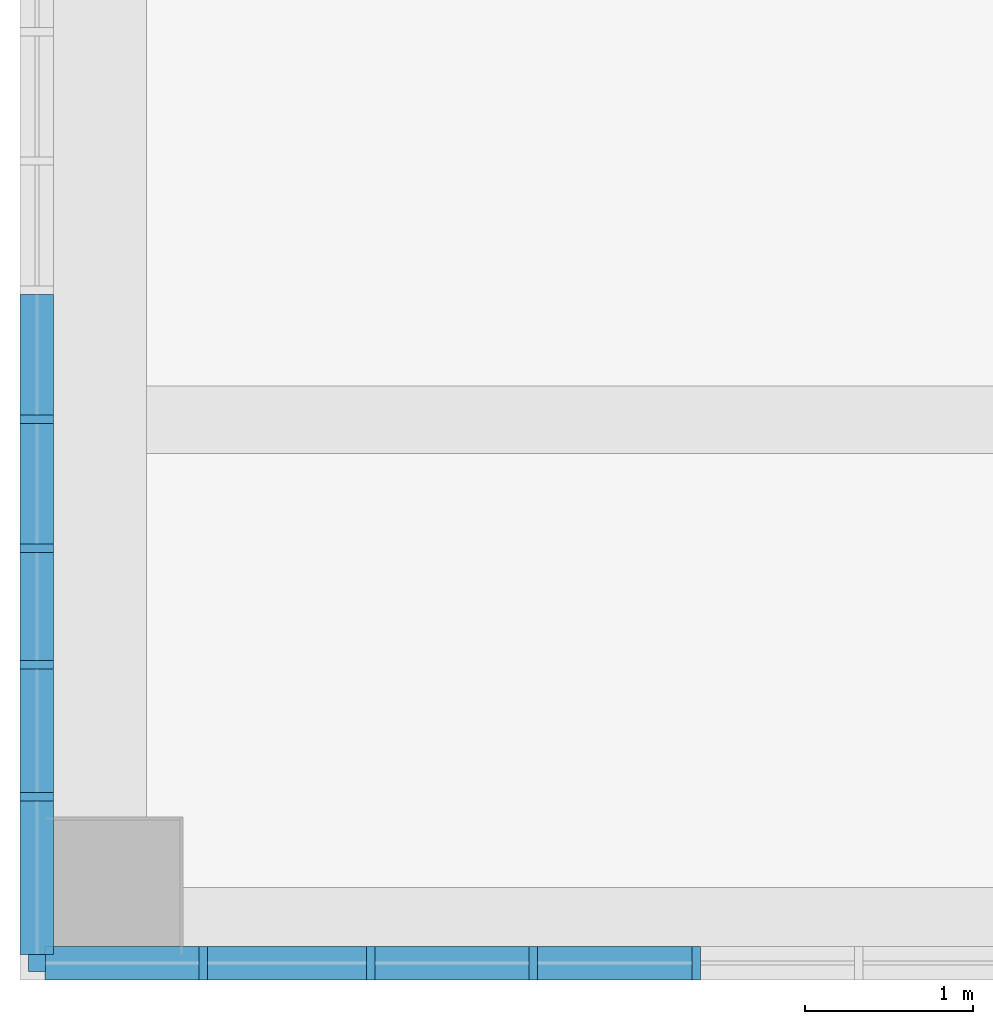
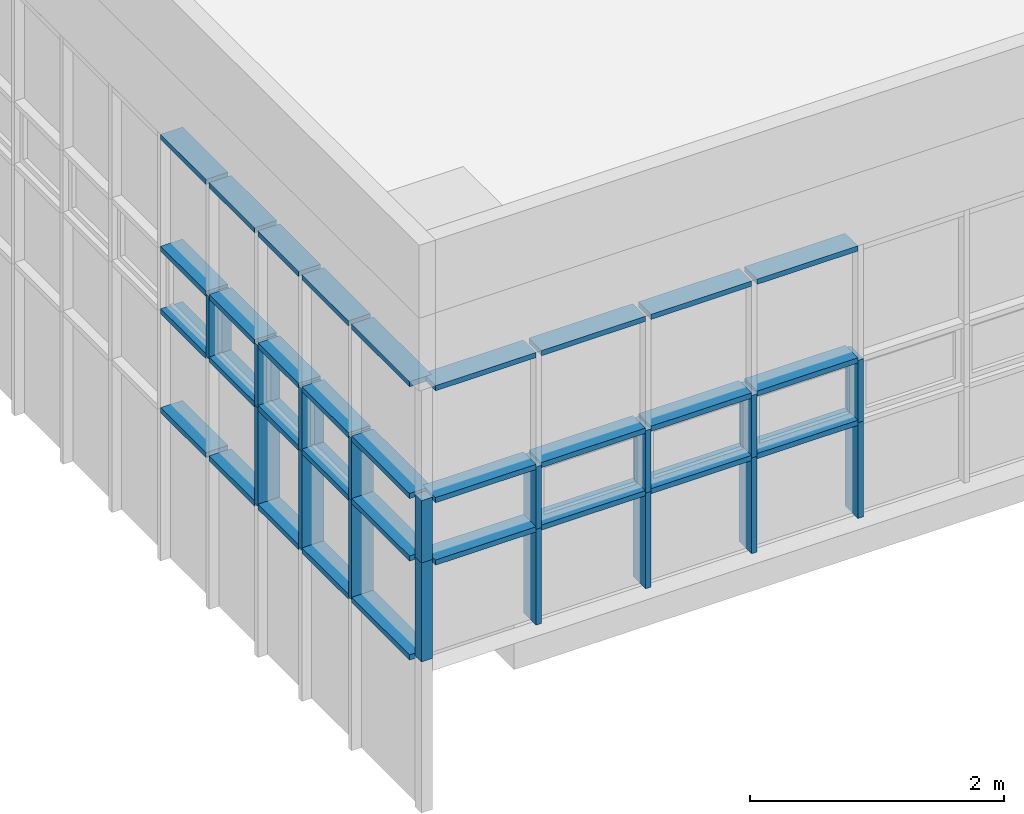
# One storey, part 10 of 81: 49 members, 2 elements without a shape of their own.
"""IFC2X3 building model written with IfcOpenShell, lengths in millimetres."""

import ifcopenshell
import ifcopenshell.guid

model = None  # the IFC model being written
_history = None  # IfcOwnerHistory: only IFC2X3 demands one
_inside = {}  # id of a spatial element -> (the spatial element, [elements in it])
_under = {}  # id of a project, library or spatial element -> (it, [spatial elements below it])
_declared = {}  # id of a project -> (the project, [libraries it declares])
_typed = {}  # id of a type object -> (the type object, [elements of that type])
_made_of = {}  # id of a material, layer set ... -> (it, [elements and type objects made of it])


def new_model(schema):
    """Start an empty IFC model of exactly this schema.

    Asked for "IFC4X3", IfcOpenShell would pick the latest addendum, in which some entities
    have other attributes; the version numbers below select the first issue.
    IFC2X3 requires an IfcOwnerHistory on every rooted entity: one is made here for all.
    """
    global model, _history
    if schema == "IFC4X3":
        model = ifcopenshell.file(schema_version=(4, 3, 0, 0))
    else:
        model = ifcopenshell.file(schema=schema)
    _inside.clear()
    _under.clear()
    _declared.clear()
    _typed.clear()
    _made_of.clear()
    _history = None
    if model.schema == "IFC2X3":
        org = make("IfcOrganization", Name="unknown")
        user = make(
            "IfcPersonAndOrganization",
            ThePerson=make("IfcPerson", FamilyName="unknown"),
            TheOrganization=org,
        )
        app = make(
            "IfcApplication",
            ApplicationDeveloper=org,
            Version="unknown",
            ApplicationFullName="unknown",
            ApplicationIdentifier="unknown",
        )
        _history = make(
            "IfcOwnerHistory",
            OwningUser=user,
            OwningApplication=app,
            ChangeAction="ADDED",
            CreationDate=0,
        )
    return model


def make(cls, **values):
    """One entity of the class cls with the attributes given. An attribute that is None is left unset."""
    return model.create_entity(
        cls, **{name: value for name, value in values.items() if value is not None}
    )


def entity(cls, *values):
    """Any entity or typed value of the class cls, its attributes in the order of the schema. None: left unset."""
    e = model.create_entity(cls)
    for i, value in enumerate(values):
        if value is not None:
            e[i] = value
    return e


def rooted(cls, **values):
    """An entity with a GlobalId (a new one), such as an element, a storey or a relation."""
    return make(cls, GlobalId=ifcopenshell.guid.new(), OwnerHistory=_history, **values)


def si_unit(unit_type, name, prefix=None):
    """IfcSIUnit, for example si_unit("LENGTHUNIT", "METRE", prefix="MILLI")."""
    return make("IfcSIUnit", UnitType=unit_type, Prefix=prefix, Name=name)


def converted_unit(unit_type, name, factor, base, dimensions=None, offset=None):
    """IfcConversionBasedUnit, such as the inch: factor (a typed value) times the base unit."""
    return make(
        "IfcConversionBasedUnit"
        if offset is None
        else "IfcConversionBasedUnitWithOffset",
        ConversionOffset=offset,
        Dimensions=None
        if dimensions is None
        else entity("IfcDimensionalExponents", *dimensions),
        UnitType=unit_type,
        Name=name,
        ConversionFactor=make(
            "IfcMeasureWithUnit", ValueComponent=factor, UnitComponent=base
        ),
    )


def derived_unit(unit_type, elements):
    """IfcDerivedUnit: a product of units, each with its exponent."""
    return make(
        "IfcDerivedUnit",
        Elements=[
            make("IfcDerivedUnitElement", Unit=unit, Exponent=power)
            for unit, power in elements
        ],
        UnitType=unit_type,
    )


def assignment(units):
    """IfcUnitAssignment: the units of a project."""
    return None if units is None else make("IfcUnitAssignment", Units=units)


def point(xyz):
    """IfcCartesianPoint."""
    return None if xyz is None else make("IfcCartesianPoint", Coordinates=xyz)


def direction(xyz):
    """IfcDirection."""
    return None if xyz is None else make("IfcDirection", DirectionRatios=xyz)


def frame(location, z_axis=None, x_axis=None):
    """IfcAxis2Placement3D, a coordinate frame: its origin and axes. An axis left out is left unset."""
    return make(
        "IfcAxis2Placement3D",
        Location=point(location),
        Axis=direction(z_axis),
        RefDirection=direction(x_axis),
    )


def frame_2d(location, x_axis=None):
    """IfcAxis2Placement2D, a coordinate frame in the plane: its origin and x axis."""
    return make(
        "IfcAxis2Placement2D", Location=point(location), RefDirection=direction(x_axis)
    )


def origin():
    """The frame at (0, 0, 0) with its axes left unset."""
    return frame((0.0, 0.0, 0.0))


def origin_2d_with_axis():
    """The frame at (0, 0) in the plane with the x axis (1, 0) written out."""
    return frame_2d((0.0, 0.0), x_axis=(1.0, 0.0))


def place(relative_to, where):
    """IfcLocalPlacement: puts the frame where relative to a parent placement (None: the world)."""
    return make(
        "IfcLocalPlacement", PlacementRelTo=relative_to, RelativePlacement=where
    )


def context(
    kind, dimensions, precision=None, world=None, true_north=None, identifier=None
):
    """IfcGeometricRepresentationContext, for example the 3D "Model" context."""
    return make(
        "IfcGeometricRepresentationContext",
        ContextIdentifier=identifier,
        ContextType=kind,
        CoordinateSpaceDimension=dimensions,
        Precision=precision,
        WorldCoordinateSystem=world,
        TrueNorth=true_north,
    )


def subcontext(parent, identifier, kind, view, scale=None):
    """IfcGeometricRepresentationSubContext, for example "Body" below "Model"."""
    return make(
        "IfcGeometricRepresentationSubContext",
        ContextIdentifier=identifier,
        ContextType=kind,
        ParentContext=parent,
        TargetScale=scale,
        TargetView=view,
    )


def project(units=None, contexts=None):
    """IfcProject with its units and contexts."""
    return rooted(
        "IfcProject",
        Name="project",
        RepresentationContexts=contexts,
        UnitsInContext=assignment(units),
    )


def spatial(cls, under=None, at=None, **own):
    """A site, building, storey or space (cls), placed at a placement, below another one or the project."""
    s = rooted(cls, ObjectPlacement=at, **own)
    if under is not None:
        _under.setdefault(under.id(), (under, []))[1].append(s)
    return s


def profile(cls, at=None, kind="AREA", **sizes):
    """A parametric profile (cls). Its sizes go by their IFC names, for example OverallWidth=200.0."""
    return make(cls, ProfileType=kind, Position=at, **sizes)


def rectangle(**sizes):
    """IfcRectangleProfileDef."""
    return profile("IfcRectangleProfileDef", **sizes)


def extrude(swept, where, along, depth):
    """IfcExtrudedAreaSolid: the profile swept, set in the frame where, extruded along a direction by depth."""
    return make(
        "IfcExtrudedAreaSolid",
        SweptArea=swept,
        Position=where,
        ExtrudedDirection=direction(along),
        Depth=depth,
    )


def shape(context_of_items, identifier, shape_type, items):
    """IfcShapeRepresentation: the items that make up one representation, for example the "Body"."""
    return make(
        "IfcShapeRepresentation",
        ContextOfItems=context_of_items,
        RepresentationIdentifier=identifier,
        RepresentationType=shape_type,
        Items=items,
    )


def source(mapping_origin, context_of_items, identifier, shape_type, items):
    """IfcRepresentationMap: a shape defined once, which mapped items show again and again."""
    return make(
        "IfcRepresentationMap",
        MappingOrigin=mapping_origin,
        MappedRepresentation=shape(context_of_items, identifier, shape_type, items),
    )


def transform(
    local_origin,
    x_axis=None,
    y_axis=None,
    z_axis=None,
    scale=None,
    scale2=None,
    scale3=None,
    uniform=True,
):
    """IfcCartesianTransformationOperator3D, or its non-uniform kind. x_axis, y_axis, z_axis: its Axis1, 2, 3."""
    if uniform:
        return make(
            "IfcCartesianTransformationOperator3D",
            Axis1=direction(x_axis),
            Axis2=direction(y_axis),
            LocalOrigin=point(local_origin),
            Scale=scale,
            Axis3=direction(z_axis),
        )
    return make(
        "IfcCartesianTransformationOperator3DnonUniform",
        Axis1=direction(x_axis),
        Axis2=direction(y_axis),
        LocalOrigin=point(local_origin),
        Scale=scale,
        Axis3=direction(z_axis),
        Scale2=scale2,
        Scale3=scale3,
    )


def mapped(mapping_source, mapping_target):
    """IfcMappedItem: shows the shape of a source again, moved by a transform."""
    return make(
        "IfcMappedItem", MappingSource=mapping_source, MappingTarget=mapping_target
    )


def material(Name=None, Category=None):
    """IfcMaterial."""
    return make("IfcMaterial", Name=Name, Category=Category)


def made_of(thing, what):
    """Note that an element or type object is made of a material, layer set ...; save() writes the relation."""
    if what is not None:
        _made_of.setdefault(what.id(), (what, []))[1].append(thing)
    return thing


def type_object(cls, material=None, **own):
    """A type object (cls), such as IfcWallType, which elements share."""
    return made_of(rooted(cls, **own), material)


def type_shapes(of_type, sources):
    """Give a type object the sources (RepresentationMaps) that its elements show as mapped items."""
    of_type.RepresentationMaps = sources


def element(
    cls,
    number,
    at=None,
    inside=None,
    cuts=None,
    type_object=None,
    material=None,
    context=None,
    identifier="Body",
    shape_type=None,
    held_by="IfcProductDefinitionShape",
    body=None,
    shapes=None,
    **own,
):
    """One element of the class cls, such as IfcWall. Its Tag is "e" and its number.

    at: its placement. inside: the storey or other place that contains it. cuts: it is an
    opening in that element (IfcRelVoidsElement). A single representation is given by context,
    identifier, shape_type and body (its items); several are given by shapes. held_by: the class
    of the entity that holds the representations. save() writes the other relations.
    """
    e = rooted(cls, Tag="e%d" % number, ObjectPlacement=at, **own)
    if body is not None:
        shapes = [shape(context, identifier, shape_type, body)]
    if shapes is not None:
        e.Representation = make(held_by, Representations=shapes)
    if inside is not None:
        _inside.setdefault(inside.id(), (inside, []))[1].append(e)
    if cuts is not None:
        rooted(
            "IfcRelVoidsElement", RelatingBuildingElement=cuts, RelatedOpeningElement=e
        )
    if type_object is not None:
        _typed.setdefault(type_object.id(), (type_object, []))[1].append(e)
    return made_of(e, material)


def aggregate(whole, parts):
    """IfcRelAggregates: a whole, such as a stair, and the parts it consists of."""
    return rooted("IfcRelAggregates", RelatingObject=whole, RelatedObjects=parts)


def save(model, path):
    """Write the relations noted so far, then the file.

    IfcRelAggregates (storeys below a building ...), IfcRelContainedInSpatialStructure (elements
    in a storey), IfcRelDefinesByType, IfcRelAssociatesMaterial and IfcRelDeclares: one each for
    every whole, place, type object, material and project.
    """
    for whole, parts in _under.values():
        aggregate(whole, parts)
    for where, things in _inside.values():
        rooted(
            "IfcRelContainedInSpatialStructure",
            RelatedElements=things,
            RelatingStructure=where,
        )
    for kind, things in _typed.values():
        rooted("IfcRelDefinesByType", RelatedObjects=things, RelatingType=kind)
    for what, things in _made_of.values():
        rooted("IfcRelAssociatesMaterial", RelatedObjects=things, RelatingMaterial=what)
    for by, libraries in _declared.values():
        rooted("IfcRelDeclares", RelatingContext=by, RelatedDefinitions=libraries)
    model.write(path)


model = new_model("IFC2X3")

# Units and contexts
model_context = context("Model", 3, precision=0.01, world=origin(), true_north=direction((6.123031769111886e-17, 1.0)))
body_context = subcontext(model_context, "Body", "Model", "MODEL_VIEW")
ifc_project = project(units=[si_unit("LENGTHUNIT", "METRE", prefix="MILLI"), si_unit("AREAUNIT", "SQUARE_METRE"), si_unit("VOLUMEUNIT", "CUBIC_METRE"), converted_unit("PLANEANGLEUNIT", "DEGREE", entity("IfcRatioMeasure", 0.017453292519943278), si_unit("PLANEANGLEUNIT", "RADIAN"), dimensions=[0, 0, 0, 0, 0, 0, 0]), si_unit("MASSUNIT", "GRAM", prefix="KILO"), derived_unit("MASSDENSITYUNIT", [(si_unit("MASSUNIT", "GRAM", prefix="KILO"), 1), (si_unit("LENGTHUNIT", "METRE"), -3)]), derived_unit("MOMENTOFINERTIAUNIT", [(si_unit("LENGTHUNIT", "METRE"), 4)]), si_unit("TIMEUNIT", "SECOND"), si_unit("FREQUENCYUNIT", "HERTZ"), si_unit("THERMODYNAMICTEMPERATUREUNIT", "DEGREE_CELSIUS"), derived_unit("THERMALTRANSMITTANCEUNIT", [(si_unit("MASSUNIT", "GRAM", prefix="KILO"), 1), (si_unit("THERMODYNAMICTEMPERATUREUNIT", "KELVIN"), -1), (si_unit("TIMEUNIT", "SECOND"), -3)]), derived_unit("VOLUMETRICFLOWRATEUNIT", [(si_unit("LENGTHUNIT", "METRE"), 3), (si_unit("TIMEUNIT", "SECOND"), -1)]), derived_unit("MASSFLOWRATEUNIT", [(si_unit("MASSUNIT", "GRAM", prefix="KILO"), 1), (si_unit("TIMEUNIT", "SECOND"), -1)]), derived_unit("ROTATIONALFREQUENCYUNIT", [(si_unit("TIMEUNIT", "SECOND"), -1)]), si_unit("ELECTRICCURRENTUNIT", "AMPERE"), si_unit("ELECTRICVOLTAGEUNIT", "VOLT"), si_unit("POWERUNIT", "WATT"), si_unit("FORCEUNIT", "NEWTON", prefix="KILO"), si_unit("ILLUMINANCEUNIT", "LUX"), si_unit("LUMINOUSFLUXUNIT", "LUMEN"), si_unit("LUMINOUSINTENSITYUNIT", "CANDELA"), derived_unit("USERDEFINED", [(si_unit("MASSUNIT", "GRAM", prefix="KILO"), -1), (si_unit("LENGTHUNIT", "METRE"), -2), (si_unit("TIMEUNIT", "SECOND"), 3), (si_unit("LUMINOUSFLUXUNIT", "LUMEN"), 1)]), derived_unit("SOUNDPOWERUNIT", [(si_unit("MASSUNIT", "GRAM", prefix="KILO"), 1), (si_unit("LENGTHUNIT", "METRE"), 2), (si_unit("TIMEUNIT", "SECOND"), -3)]), derived_unit("SOUNDPRESSUREUNIT", [(si_unit("MASSUNIT", "GRAM", prefix="KILO"), 1), (si_unit("LENGTHUNIT", "METRE"), -1), (si_unit("TIMEUNIT", "SECOND"), -2)]), derived_unit("LINEARVELOCITYUNIT", [(si_unit("LENGTHUNIT", "METRE"), 1), (si_unit("TIMEUNIT", "SECOND"), -1)]), si_unit("PRESSUREUNIT", "PASCAL"), derived_unit("USERDEFINED", [(si_unit("LENGTHUNIT", "METRE"), -2), (si_unit("MASSUNIT", "GRAM", prefix="KILO"), 1), (si_unit("TIMEUNIT", "SECOND"), -2)]), derived_unit("LINEARFORCEUNIT", [(si_unit("MASSUNIT", "GRAM", prefix="KILO"), 1), (si_unit("LENGTHUNIT", "METRE"), 1), (si_unit("TIMEUNIT", "SECOND"), -2), (si_unit("LENGTHUNIT", "METRE"), -1)]), derived_unit("PLANARFORCEUNIT", [(si_unit("MASSUNIT", "GRAM", prefix="KILO"), 1), (si_unit("LENGTHUNIT", "METRE"), 1), (si_unit("TIMEUNIT", "SECOND"), -2), (si_unit("LENGTHUNIT", "METRE"), -2)])], contexts=[model_context])

# Site, building, storey
site_placement = place(None, frame((-14167.972527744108, -657.2125860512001, 0.0)))
site = spatial("IfcSite", under=ifc_project, at=site_placement, Name="Default", CompositionType="ELEMENT")
building_placement = place(site_placement, origin())
building = spatial("IfcBuilding", under=site, at=building_placement, Name="Sample Building", CompositionType="ELEMENT")
storey_placement = place(building_placement, frame((0.0, 0.0, 13400.0)))
storey = spatial("IfcBuildingStorey", under=building, at=storey_placement, Name="지상 4층", CompositionType="ELEMENT", Elevation=13400.00000000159)

# Curtain wall, members
curtain_wall_type = type_object("IfcCurtainWallType", Name="커튼월:CW112-스테인리스 스틸 커튼월", PredefinedType="NOTDEFINED")
curtain_wall_1_placement = place(storey_placement, frame((0.0, 0.0, -13400.0)))
curtain_wall_1 = element("IfcCurtainWall", 1, at=curtain_wall_1_placement, inside=storey, type_object=curtain_wall_type, Name="커튼월:CW112-스테인리스 스틸 커튼월", ObjectType="커튼월:CW112-스테인리스 스틸 커튼월")
ifc_material = material(Name="<Unnamed>")
member_type_1 = type_object("IfcMemberType", Name="직사각형 멀리언:CW200-직사각형 멀리언 50x200mm", PredefinedType="MULLION", material=ifc_material)
shared_shape_1 = source(origin(), body_context, "Body", "SweptSolid", [
    extrude(rectangle(XDim=200.0, YDim=50.0, at=origin_2d_with_axis()), frame((0.0, 0.0, -600.0), z_axis=(0.0, 0.0, 1.0), x_axis=(0.0, -1.0, 0.0)), (0.0, 0.0, 1.0), 600.0),
])
type_shapes(member_type_1, [shared_shape_1])
member_1_placement = place(curtain_wall_1_placement, frame((14017.955105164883, 3735.817707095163, 14400.0), z_axis=(0.0, 0.0, -1.0), x_axis=(0.0, -1.0, 0.0)))
member_1 = element("IfcMember", 2, at=member_1_placement, type_object=member_type_1, material=ifc_material, Name="직사각형 멀리언:CW200-직사각형 멀리언 50x200mm", ObjectType="직사각형 멀리언:CW200-직사각형 멀리언 50x200mm", context=body_context, shape_type="MappedRepresentation", body=[
    mapped(shared_shape_1, transform((0.0, 0.0, 0.0), scale=1.0)),
])
member_2_placement = place(curtain_wall_1_placement, frame((14017.955105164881, 2969.8177070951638, 14400.0), z_axis=(0.0, 0.0, -1.0), x_axis=(0.0, -1.0, 0.0)))
member_2 = element("IfcMember", 3, at=member_2_placement, type_object=member_type_1, material=ifc_material, Name="직사각형 멀리언:CW200-직사각형 멀리언 50x200mm", ObjectType="직사각형 멀리언:CW200-직사각형 멀리언 50x200mm", context=body_context, shape_type="MappedRepresentation", body=[
    mapped(shared_shape_1, transform((0.0, 0.0, 0.0), scale=1.0)),
])
member_3_placement = place(curtain_wall_1_placement, frame((14017.955105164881, 2277.817707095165, 14400.0), z_axis=(0.0, 0.0, -1.0), x_axis=(0.0, -1.0, 0.0)))
member_3 = element("IfcMember", 4, at=member_3_placement, type_object=member_type_1, material=ifc_material, Name="직사각형 멀리언:CW200-직사각형 멀리언 50x200mm", ObjectType="직사각형 멀리언:CW200-직사각형 멀리언 50x200mm", context=body_context, shape_type="MappedRepresentation", body=[
    mapped(shared_shape_1, transform((0.0, 0.0, 0.0), scale=1.0)),
])
member_4_placement = place(curtain_wall_1_placement, frame((14017.955105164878, 1494.8177070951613, 14400.0), z_axis=(0.0, 0.0, -1.0), x_axis=(0.0, -1.0, 0.0)))
member_4 = element("IfcMember", 5, at=member_4_placement, type_object=member_type_1, material=ifc_material, Name="직사각형 멀리언:CW200-직사각형 멀리언 50x200mm", ObjectType="직사각형 멀리언:CW200-직사각형 멀리언 50x200mm", context=body_context, shape_type="MappedRepresentation", body=[
    mapped(shared_shape_1, transform((0.0, 0.0, 0.0), scale=1.0)),
])

curtain_wall_2_placement = place(storey_placement, frame((0.0, 0.0, -13400.0)))
curtain_wall_2 = element("IfcCurtainWall", 6, at=curtain_wall_2_placement, inside=storey, type_object=curtain_wall_type, Name="커튼월:CW112-스테인리스 스틸 커튼월", ObjectType="커튼월:CW112-스테인리스 스틸 커튼월")
member_5_placement = place(curtain_wall_2_placement, frame((15005.156070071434, 507.21229514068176, 14400.0), z_axis=(0.0, 0.0, -1.0), x_axis=(1.0, 0.0, 0.0)))
member_5 = element("IfcMember", 7, at=member_5_placement, type_object=member_type_1, material=ifc_material, Name="직사각형 멀리언:CW200-직사각형 멀리언 50x200mm", ObjectType="직사각형 멀리언:CW200-직사각형 멀리언 50x200mm", context=body_context, shape_type="MappedRepresentation", body=[
    mapped(shared_shape_1, transform((0.0, 0.0, 0.0), scale=1.0)),
])
member_6_placement = place(curtain_wall_2_placement, frame((16000.156070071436, 507.2122951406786, 14400.0), z_axis=(0.0, 0.0, -1.0), x_axis=(1.0, 0.0, 0.0)))
member_6 = element("IfcMember", 8, at=member_6_placement, type_object=member_type_1, material=ifc_material, Name="직사각형 멀리언:CW200-직사각형 멀리언 50x200mm", ObjectType="직사각형 멀리언:CW200-직사각형 멀리언 50x200mm", context=body_context, shape_type="MappedRepresentation", body=[
    mapped(shared_shape_1, transform((0.0, 0.0, 0.0), scale=1.0)),
])
member_7_placement = place(curtain_wall_2_placement, frame((16965.156070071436, 507.21229514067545, 14400.0), z_axis=(0.0, 0.0, -1.0), x_axis=(1.0, 0.0, 0.0)))
member_7 = element("IfcMember", 9, at=member_7_placement, type_object=member_type_1, material=ifc_material, Name="직사각형 멀리언:CW200-직사각형 멀리언 50x200mm", ObjectType="직사각형 멀리언:CW200-직사각형 멀리언 50x200mm", context=body_context, shape_type="MappedRepresentation", body=[
    mapped(shared_shape_1, transform((0.0, 0.0, 0.0), scale=1.0)),
])
member_8_placement = place(curtain_wall_2_placement, frame((17930.156070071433, 507.2122951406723, 14400.0), z_axis=(0.0, 0.0, -1.0), x_axis=(1.0, 0.0, 0.0)))
member_8 = element("IfcMember", 10, at=member_8_placement, type_object=member_type_1, material=ifc_material, Name="직사각형 멀리언:CW200-직사각형 멀리언 50x200mm", ObjectType="직사각형 멀리언:CW200-직사각형 멀리언 50x200mm", context=body_context, shape_type="MappedRepresentation", body=[
    mapped(shared_shape_1, transform((0.0, 0.0, 0.0), scale=1.0)),
])

# Member
member_type_2 = type_object("IfcMemberType", Name="직사각형 멀리언:CW200-직사각형 멀리언 50x200mm", PredefinedType="MULLION", material=ifc_material)
shared_shape_2 = source(origin(), body_context, "Body", "SweptSolid", [
    extrude(rectangle(XDim=200.0, YDim=50.0, at=origin_2d_with_axis()), frame((-25.0, 0.0, -912.5000000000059), z_axis=(0.0, 0.0, 1.0), x_axis=(0.0, -1.0, 0.0)), (0.0, 0.0, 1.0), 912.5000000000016),
])
type_shapes(member_type_2, [shared_shape_2])
member_9_placement = place(curtain_wall_1_placement, frame((14017.955105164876, 557.4731922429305, 16100.0), z_axis=(0.0, -1.0, 0.0), x_axis=(0.0, 0.0, 1.0)))
member_9 = element("IfcMember", 11, at=member_9_placement, type_object=member_type_2, material=ifc_material, Name="직사각형 멀리언:CW200-직사각형 멀리언 50x200mm", ObjectType="직사각형 멀리언:CW200-직사각형 멀리언 50x200mm", context=body_context, shape_type="MappedRepresentation", body=[
    mapped(shared_shape_2, transform((0.0, 0.0, 0.0), scale=1.0)),
])

member_type_3 = type_object("IfcMemberType", Name="직사각형 멀리언:CW200-직사각형 멀리언 50x200mm", PredefinedType="MULLION", material=ifc_material)
shared_shape_3 = source(origin(), body_context, "Body", "SweptSolid", [
    extrude(rectangle(XDim=200.0, YDim=50.0, at=origin_2d_with_axis()), frame((0.0, 0.0, -912.4999999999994), z_axis=(0.0, 0.0, 1.0), x_axis=(0.0, -1.0, 0.0)), (0.0, 0.0, 1.0), 912.5000000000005),
])
type_shapes(member_type_3, [shared_shape_3])
member_10_placement = place(curtain_wall_1_placement, frame((14017.955105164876, 557.4731922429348, 14400.0), z_axis=(0.0, -1.0, 0.0), x_axis=(0.0, 0.0, 1.0)))
member_10 = element("IfcMember", 12, at=member_10_placement, type_object=member_type_3, material=ifc_material, Name="직사각형 멀리언:CW200-직사각형 멀리언 50x200mm", ObjectType="직사각형 멀리언:CW200-직사각형 멀리언 50x200mm", context=body_context, shape_type="MappedRepresentation", body=[
    mapped(shared_shape_3, transform((0.0, 0.0, 0.0), scale=1.0)),
])

member_11_placement = place(curtain_wall_1_placement, frame((14017.955105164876, 557.4731922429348, 15000.0), z_axis=(0.0, -1.0, 0.0), x_axis=(0.0, 0.0, 1.0)))
member_11 = element("IfcMember", 13, at=member_11_placement, type_object=member_type_3, material=ifc_material, Name="직사각형 멀리언:CW200-직사각형 멀리언 50x200mm", ObjectType="직사각형 멀리언:CW200-직사각형 멀리언 50x200mm", context=body_context, shape_type="MappedRepresentation", body=[
    mapped(shared_shape_3, transform((0.0, 0.0, 0.0), scale=1.0)),
])

member_12_placement = place(curtain_wall_1_placement, frame((14017.955105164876, 557.4731922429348, 13450.0), z_axis=(0.0, -1.0, 0.0), x_axis=(0.0, 0.0, 1.0)))
member_12 = element("IfcMember", 14, at=member_12_placement, type_object=member_type_3, material=ifc_material, Name="직사각형 멀리언:CW200-직사각형 멀리언 50x200mm", ObjectType="직사각형 멀리언:CW200-직사각형 멀리언 50x200mm", context=body_context, shape_type="MappedRepresentation", body=[
    mapped(shared_shape_3, transform((0.0, 0.0, 0.0), scale=1.0)),
])

member_type_4 = type_object("IfcMemberType", Name="직사각형 멀리언:CW200-직사각형 멀리언 100 x 100mm", PredefinedType="MULLION", material=ifc_material)
shared_shape_4 = source(origin(), body_context, "Body", "SweptSolid", [
    extrude(rectangle(XDim=100.0, YDim=100.0, at=origin_2d_with_axis()), frame((-50.0, 0.0, -600.0), z_axis=(0.0, 0.0, 1.0), x_axis=(0.0, -1.0, 0.0)), (0.0, 0.0, 1.0), 600.0000000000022),
])
type_shapes(member_type_4, [shared_shape_4])
member_13_placement = place(curtain_wall_1_placement, frame((14017.955105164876, 457.47319224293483, 14400.0), z_axis=(0.0, 0.0, -1.0), x_axis=(0.0, -1.0, 0.0)))
member_13 = element("IfcMember", 15, at=member_13_placement, type_object=member_type_4, material=ifc_material, Name="직사각형 멀리언:CW200-직사각형 멀리언 100 x 100mm", ObjectType="직사각형 멀리언:CW200-직사각형 멀리언 100 x 100mm", context=body_context, shape_type="MappedRepresentation", body=[
    mapped(shared_shape_4, transform((0.0, 0.0, 0.0), scale=1.0)),
])

member_type_5 = type_object("IfcMemberType", Name="직사각형 멀리언:CW200-직사각형 멀리언 50x200mm", PredefinedType="MULLION", material=ifc_material)
shared_shape_5 = source(origin(), body_context, "Body", "SweptSolid", [
    extrude(rectangle(XDim=200.0, YDim=50.0, at=origin_2d_with_axis()), frame((0.0, 0.0, -716.0), z_axis=(0.0, 0.0, 1.0), x_axis=(0.0, -1.0, 0.0)), (0.0, 0.0, 1.0), 715.9999999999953),
])
type_shapes(member_type_5, [shared_shape_5])
member_14_placement = place(curtain_wall_1_placement, frame((14017.955105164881, 2994.8177070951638, 14400.0), z_axis=(0.0, -1.0, 0.0), x_axis=(0.0, 0.0, 1.0)))
member_14 = element("IfcMember", 16, at=member_14_placement, type_object=member_type_5, material=ifc_material, Name="직사각형 멀리언:CW200-직사각형 멀리언 50x200mm", ObjectType="직사각형 멀리언:CW200-직사각형 멀리언 50x200mm", context=body_context, shape_type="MappedRepresentation", body=[
    mapped(shared_shape_5, transform((0.0, 0.0, 0.0), scale=1.0)),
])

member_15_placement = place(curtain_wall_1_placement, frame((14017.955105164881, 2994.8177070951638, 15000.0), z_axis=(0.0, -1.0, 0.0), x_axis=(0.0, 0.0, 1.0)))
member_15 = element("IfcMember", 17, at=member_15_placement, type_object=member_type_5, material=ifc_material, Name="직사각형 멀리언:CW200-직사각형 멀리언 50x200mm", ObjectType="직사각형 멀리언:CW200-직사각형 멀리언 50x200mm", context=body_context, shape_type="MappedRepresentation", body=[
    mapped(shared_shape_5, transform((0.0, 0.0, 0.0), scale=1.0)),
])

member_16_placement = place(curtain_wall_1_placement, frame((14017.955105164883, 3760.817707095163, 14400.0), z_axis=(0.0, -1.0, 0.0), x_axis=(0.0, 0.0, 1.0)))
member_16 = element("IfcMember", 18, at=member_16_placement, type_object=member_type_5, material=ifc_material, Name="직사각형 멀리언:CW200-직사각형 멀리언 50x200mm", ObjectType="직사각형 멀리언:CW200-직사각형 멀리언 50x200mm", context=body_context, shape_type="MappedRepresentation", body=[
    mapped(shared_shape_5, transform((0.0, 0.0, 0.0), scale=1.0)),
])

member_17_placement = place(curtain_wall_1_placement, frame((14017.955105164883, 3760.817707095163, 15000.0), z_axis=(0.0, -1.0, 0.0), x_axis=(0.0, 0.0, 1.0)))
member_17 = element("IfcMember", 19, at=member_17_placement, type_object=member_type_5, material=ifc_material, Name="직사각형 멀리언:CW200-직사각형 멀리언 50x200mm", ObjectType="직사각형 멀리언:CW200-직사각형 멀리언 50x200mm", context=body_context, shape_type="MappedRepresentation", body=[
    mapped(shared_shape_5, transform((0.0, 0.0, 0.0), scale=1.0)),
])

member_18_placement = place(curtain_wall_1_placement, frame((14017.955105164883, 3760.817707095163, 13450.0), z_axis=(0.0, -1.0, 0.0), x_axis=(0.0, 0.0, 1.0)))
member_18 = element("IfcMember", 20, at=member_18_placement, type_object=member_type_5, material=ifc_material, Name="직사각형 멀리언:CW200-직사각형 멀리언 50x200mm", ObjectType="직사각형 멀리언:CW200-직사각형 멀리언 50x200mm", context=body_context, shape_type="MappedRepresentation", body=[
    mapped(shared_shape_5, transform((0.0, 0.0, 0.0), scale=1.0)),
])

member_19_placement = place(curtain_wall_1_placement, frame((14017.955105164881, 2994.8177070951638, 13450.0), z_axis=(0.0, -1.0, 0.0), x_axis=(0.0, 0.0, 1.0)))
member_19 = element("IfcMember", 21, at=member_19_placement, type_object=member_type_5, material=ifc_material, Name="직사각형 멀리언:CW200-직사각형 멀리언 50x200mm", ObjectType="직사각형 멀리언:CW200-직사각형 멀리언 50x200mm", context=body_context, shape_type="MappedRepresentation", body=[
    mapped(shared_shape_5, transform((0.0, 0.0, 0.0), scale=1.0)),
])

member_type_6 = type_object("IfcMemberType", Name="직사각형 멀리언:CW200-직사각형 멀리언 50x200mm", PredefinedType="MULLION", material=ifc_material)
shared_shape_6 = source(origin(), body_context, "Body", "SweptSolid", [
    extrude(rectangle(XDim=200.0, YDim=50.0, at=origin_2d_with_axis()), frame((-25.0, 0.0, -716.0), z_axis=(0.0, 0.0, 1.0), x_axis=(0.0, -1.0, 0.0)), (0.0, 0.0, 1.0), 715.9999999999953),
])
type_shapes(member_type_6, [shared_shape_6])
member_20_placement = place(curtain_wall_1_placement, frame((14017.955105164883, 3760.8177070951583, 16100.0), z_axis=(0.0, -1.0, 0.0), x_axis=(0.0, 0.0, 1.0)))
member_20 = element("IfcMember", 22, at=member_20_placement, type_object=member_type_6, material=ifc_material, Name="직사각형 멀리언:CW200-직사각형 멀리언 50x200mm", ObjectType="직사각형 멀리언:CW200-직사각형 멀리언 50x200mm", context=body_context, shape_type="MappedRepresentation", body=[
    mapped(shared_shape_6, transform((0.0, 0.0, 0.0), scale=1.0)),
])

member_21_placement = place(curtain_wall_1_placement, frame((14017.955105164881, 2994.817707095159, 16100.0), z_axis=(0.0, -1.0, 0.0), x_axis=(0.0, 0.0, 1.0)))
member_21 = element("IfcMember", 23, at=member_21_placement, type_object=member_type_6, material=ifc_material, Name="직사각형 멀리언:CW200-직사각형 멀리언 50x200mm", ObjectType="직사각형 멀리언:CW200-직사각형 멀리언 50x200mm", context=body_context, shape_type="MappedRepresentation", body=[
    mapped(shared_shape_6, transform((0.0, 0.0, 0.0), scale=1.0)),
])

member_type_7 = type_object("IfcMemberType", Name="직사각형 멀리언:CW200-직사각형 멀리언 50x200mm", PredefinedType="MULLION", material=ifc_material)
shared_shape_7 = source(origin(), body_context, "Body", "SweptSolid", [
    extrude(rectangle(XDim=200.0, YDim=50.0, at=origin_2d_with_axis()), frame((0.0, 0.0, -642.0), z_axis=(0.0, 0.0, 1.0), x_axis=(0.0, -1.0, 0.0)), (0.0, 0.0, 1.0), 641.9999999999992),
])
type_shapes(member_type_7, [shared_shape_7])
member_22_placement = place(curtain_wall_1_placement, frame((14017.955105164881, 2302.817707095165, 14400.0), z_axis=(0.0, -1.0, 0.0), x_axis=(0.0, 0.0, 1.0)))
member_22 = element("IfcMember", 24, at=member_22_placement, type_object=member_type_7, material=ifc_material, Name="직사각형 멀리언:CW200-직사각형 멀리언 50x200mm", ObjectType="직사각형 멀리언:CW200-직사각형 멀리언 50x200mm", context=body_context, shape_type="MappedRepresentation", body=[
    mapped(shared_shape_7, transform((0.0, 0.0, 0.0), scale=1.0)),
])

member_23_placement = place(curtain_wall_1_placement, frame((14017.955105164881, 2302.817707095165, 15000.0), z_axis=(0.0, -1.0, 0.0), x_axis=(0.0, 0.0, 1.0)))
member_23 = element("IfcMember", 25, at=member_23_placement, type_object=member_type_7, material=ifc_material, Name="직사각형 멀리언:CW200-직사각형 멀리언 50x200mm", ObjectType="직사각형 멀리언:CW200-직사각형 멀리언 50x200mm", context=body_context, shape_type="MappedRepresentation", body=[
    mapped(shared_shape_7, transform((0.0, 0.0, 0.0), scale=1.0)),
])

member_24_placement = place(curtain_wall_1_placement, frame((14017.955105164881, 2302.817707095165, 13450.0), z_axis=(0.0, -1.0, 0.0), x_axis=(0.0, 0.0, 1.0)))
member_24 = element("IfcMember", 26, at=member_24_placement, type_object=member_type_7, material=ifc_material, Name="직사각형 멀리언:CW200-직사각형 멀리언 50x200mm", ObjectType="직사각형 멀리언:CW200-직사각형 멀리언 50x200mm", context=body_context, shape_type="MappedRepresentation", body=[
    mapped(shared_shape_7, transform((0.0, 0.0, 0.0), scale=1.0)),
])

member_type_8 = type_object("IfcMemberType", Name="직사각형 멀리언:CW200-직사각형 멀리언 50x200mm", PredefinedType="MULLION", material=ifc_material)
shared_shape_8 = source(origin(), body_context, "Body", "SweptSolid", [
    extrude(rectangle(XDim=200.0, YDim=50.0, at=origin_2d_with_axis()), frame((-25.0, 0.0, -642.0), z_axis=(0.0, 0.0, 1.0), x_axis=(0.0, -1.0, 0.0)), (0.0, 0.0, 1.0), 641.9999999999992),
])
type_shapes(member_type_8, [shared_shape_8])
member_25_placement = place(curtain_wall_1_placement, frame((14017.955105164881, 2302.817707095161, 16100.0), z_axis=(0.0, -1.0, 0.0), x_axis=(0.0, 0.0, 1.0)))
member_25 = element("IfcMember", 27, at=member_25_placement, type_object=member_type_8, material=ifc_material, Name="직사각형 멀리언:CW200-직사각형 멀리언 50x200mm", ObjectType="직사각형 멀리언:CW200-직사각형 멀리언 50x200mm", context=body_context, shape_type="MappedRepresentation", body=[
    mapped(shared_shape_8, transform((0.0, 0.0, 0.0), scale=1.0)),
])

member_type_9 = type_object("IfcMemberType", Name="직사각형 멀리언:CW200-직사각형 멀리언 50x200mm", PredefinedType="MULLION", material=ifc_material)
shared_shape_9 = source(origin(), body_context, "Body", "SweptSolid", [
    extrude(rectangle(XDim=200.0, YDim=50.0, at=origin_2d_with_axis()), frame((0.0, 0.0, -733.0), z_axis=(0.0, 0.0, 1.0), x_axis=(0.0, -1.0, 0.0)), (0.0, 0.0, 1.0), 732.9999999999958),
])
type_shapes(member_type_9, [shared_shape_9])
member_26_placement = place(curtain_wall_1_placement, frame((14017.955105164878, 1519.8177070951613, 14400.0), z_axis=(0.0, -1.0, 0.0), x_axis=(0.0, 0.0, 1.0)))
member_26 = element("IfcMember", 28, at=member_26_placement, type_object=member_type_9, material=ifc_material, Name="직사각형 멀리언:CW200-직사각형 멀리언 50x200mm", ObjectType="직사각형 멀리언:CW200-직사각형 멀리언 50x200mm", context=body_context, shape_type="MappedRepresentation", body=[
    mapped(shared_shape_9, transform((0.0, 0.0, 0.0), scale=1.0)),
])

member_27_placement = place(curtain_wall_1_placement, frame((14017.955105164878, 1519.8177070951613, 15000.0), z_axis=(0.0, -1.0, 0.0), x_axis=(0.0, 0.0, 1.0)))
member_27 = element("IfcMember", 29, at=member_27_placement, type_object=member_type_9, material=ifc_material, Name="직사각형 멀리언:CW200-직사각형 멀리언 50x200mm", ObjectType="직사각형 멀리언:CW200-직사각형 멀리언 50x200mm", context=body_context, shape_type="MappedRepresentation", body=[
    mapped(shared_shape_9, transform((0.0, 0.0, 0.0), scale=1.0)),
])

member_28_placement = place(curtain_wall_1_placement, frame((14017.955105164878, 1519.8177070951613, 13450.0), z_axis=(0.0, -1.0, 0.0), x_axis=(0.0, 0.0, 1.0)))
member_28 = element("IfcMember", 30, at=member_28_placement, type_object=member_type_9, material=ifc_material, Name="직사각형 멀리언:CW200-직사각형 멀리언 50x200mm", ObjectType="직사각형 멀리언:CW200-직사각형 멀리언 50x200mm", context=body_context, shape_type="MappedRepresentation", body=[
    mapped(shared_shape_9, transform((0.0, 0.0, 0.0), scale=1.0)),
])

member_type_10 = type_object("IfcMemberType", Name="직사각형 멀리언:CW200-직사각형 멀리언 50x200mm", PredefinedType="MULLION", material=ifc_material)
shared_shape_10 = source(origin(), body_context, "Body", "SweptSolid", [
    extrude(rectangle(XDim=200.0, YDim=50.0, at=origin_2d_with_axis()), frame((-25.0, 0.0, -733.0), z_axis=(0.0, 0.0, 1.0), x_axis=(0.0, -1.0, 0.0)), (0.0, 0.0, 1.0), 733.0000000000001),
])
type_shapes(member_type_10, [shared_shape_10])
member_29_placement = place(curtain_wall_1_placement, frame((14017.955105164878, 1519.8177070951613, 16100.0), z_axis=(0.0, -1.0, 0.0), x_axis=(0.0, 0.0, 1.0)))
member_29 = element("IfcMember", 31, at=member_29_placement, type_object=member_type_10, material=ifc_material, Name="직사각형 멀리언:CW200-직사각형 멀리언 50x200mm", ObjectType="직사각형 멀리언:CW200-직사각형 멀리언 50x200mm", context=body_context, shape_type="MappedRepresentation", body=[
    mapped(shared_shape_10, transform((0.0, 0.0, 0.0), scale=1.0)),
])

member_type_11 = type_object("IfcMemberType", Name="직사각형 멀리언:CW200-직사각형 멀리언 100 x 100mm", PredefinedType="MULLION", material=ifc_material)
shared_shape_11 = source(origin(), body_context, "Body", "SweptSolid", [
    extrude(rectangle(XDim=100.00000000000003, YDim=100.0, at=origin_2d_with_axis()), frame((-50.0, 0.0, -950.0), z_axis=(0.0, 0.0, 1.0), x_axis=(0.0, -1.0, 0.0)), (0.0, 0.0, 1.0), 949.9999999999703),
])
type_shapes(member_type_11, [shared_shape_11])
member_30_placement = place(curtain_wall_1_placement, frame((14017.955105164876, 457.47319224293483, 13450.0), z_axis=(0.0, 0.0, -1.0), x_axis=(0.0, -1.0, 0.0)))
member_30 = element("IfcMember", 32, at=member_30_placement, type_object=member_type_11, material=ifc_material, Name="직사각형 멀리언:CW200-직사각형 멀리언 100 x 100mm", ObjectType="직사각형 멀리언:CW200-직사각형 멀리언 100 x 100mm", context=body_context, shape_type="MappedRepresentation", body=[
    mapped(shared_shape_11, transform((0.0, 0.0, 0.0), scale=1.0)),
])

member_type_12 = type_object("IfcMemberType", Name="직사각형 멀리언:CW200-직사각형 멀리언 50x200mm", PredefinedType="MULLION", material=ifc_material)
shared_shape_12 = source(origin(), body_context, "Body", "SweptSolid", [
    extrude(rectangle(XDim=200.0, YDim=50.0, at=origin_2d_with_axis()), frame((0.0, 0.0, -950.0), z_axis=(0.0, 0.0, 1.0), x_axis=(0.0, -1.0, 0.0)), (0.0, 0.0, 1.0), 949.9999999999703),
])
type_shapes(member_type_12, [shared_shape_12])
member_31_placement = place(curtain_wall_1_placement, frame((14017.955105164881, 2969.8177070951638, 13450.0), z_axis=(0.0, 0.0, -1.0), x_axis=(0.0, -1.0, 0.0)))
member_31 = element("IfcMember", 33, at=member_31_placement, type_object=member_type_12, material=ifc_material, Name="직사각형 멀리언:CW200-직사각형 멀리언 50x200mm", ObjectType="직사각형 멀리언:CW200-직사각형 멀리언 50x200mm", context=body_context, shape_type="MappedRepresentation", body=[
    mapped(shared_shape_12, transform((0.0, 0.0, 0.0), scale=1.0)),
])

member_32_placement = place(curtain_wall_1_placement, frame((14017.955105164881, 2277.817707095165, 13450.0), z_axis=(0.0, 0.0, -1.0), x_axis=(0.0, -1.0, 0.0)))
member_32 = element("IfcMember", 34, at=member_32_placement, type_object=member_type_12, material=ifc_material, Name="직사각형 멀리언:CW200-직사각형 멀리언 50x200mm", ObjectType="직사각형 멀리언:CW200-직사각형 멀리언 50x200mm", context=body_context, shape_type="MappedRepresentation", body=[
    mapped(shared_shape_12, transform((0.0, 0.0, 0.0), scale=1.0)),
])

member_33_placement = place(curtain_wall_1_placement, frame((14017.955105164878, 1494.8177070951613, 13450.0), z_axis=(0.0, 0.0, -1.0), x_axis=(0.0, -1.0, 0.0)))
member_33 = element("IfcMember", 35, at=member_33_placement, type_object=member_type_12, material=ifc_material, Name="직사각형 멀리언:CW200-직사각형 멀리언 50x200mm", ObjectType="직사각형 멀리언:CW200-직사각형 멀리언 50x200mm", context=body_context, shape_type="MappedRepresentation", body=[
    mapped(shared_shape_12, transform((0.0, 0.0, 0.0), scale=1.0)),
])

aggregate(curtain_wall_1, [member_9, member_13, member_20, member_14, member_15, member_1, member_21, member_22, member_23, member_2, member_25, member_26, member_27, member_3, member_29, member_10, member_11, member_4, member_16, member_17, member_30, member_18, member_19, member_24, member_28, member_12, member_31, member_32, member_33])

member_type_13 = type_object("IfcMemberType", Name="직사각형 멀리언:CW200-직사각형 멀리언 50x200mm", PredefinedType="MULLION", material=ifc_material)
shared_shape_13 = source(origin(), body_context, "Body", "SweptSolid", [
    extrude(rectangle(XDim=200.0, YDim=50.0, at=origin_2d_with_axis()), frame((0.0, 0.0, -945.0), z_axis=(0.0, 0.0, 1.0), x_axis=(0.0, -1.0, 0.0)), (0.0, 0.0, 1.0), 944.9999999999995),
])
type_shapes(member_type_13, [shared_shape_13])
member_34_placement = place(curtain_wall_2_placement, frame((15975.156070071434, 507.21229514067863, 14400.0), z_axis=(1.0, 0.0, 0.0), x_axis=(0.0, 0.0, 1.0)))
member_34 = element("IfcMember", 36, at=member_34_placement, type_object=member_type_13, material=ifc_material, Name="직사각형 멀리언:CW200-직사각형 멀리언 50x200mm", ObjectType="직사각형 멀리언:CW200-직사각형 멀리언 50x200mm", context=body_context, shape_type="MappedRepresentation", body=[
    mapped(shared_shape_13, transform((0.0, 0.0, 0.0), scale=1.0)),
])

member_35_placement = place(curtain_wall_2_placement, frame((15975.156070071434, 507.21229514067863, 15000.0), z_axis=(1.0, 0.0, 0.0), x_axis=(0.0, 0.0, 1.0)))
member_35 = element("IfcMember", 37, at=member_35_placement, type_object=member_type_13, material=ifc_material, Name="직사각형 멀리언:CW200-직사각형 멀리언 50x200mm", ObjectType="직사각형 멀리언:CW200-직사각형 멀리언 50x200mm", context=body_context, shape_type="MappedRepresentation", body=[
    mapped(shared_shape_13, transform((0.0, 0.0, 0.0), scale=1.0)),
])

member_type_14 = type_object("IfcMemberType", Name="직사각형 멀리언:CW200-직사각형 멀리언 50x200mm", PredefinedType="MULLION", material=ifc_material)
shared_shape_14 = source(origin(), body_context, "Body", "SweptSolid", [
    extrude(rectangle(XDim=200.0, YDim=50.0, at=origin_2d_with_axis()), frame((-25.0, 0.0, -945.0), z_axis=(0.0, 0.0, 1.0), x_axis=(0.0, -1.0, 0.0)), (0.0, 0.0, 1.0), 945.000000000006),
])
type_shapes(member_type_14, [shared_shape_14])
member_36_placement = place(curtain_wall_2_placement, frame((15975.156070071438, 507.21229514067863, 16100.0), z_axis=(1.0, 0.0, 0.0), x_axis=(0.0, 0.0, 1.0)))
member_36 = element("IfcMember", 38, at=member_36_placement, type_object=member_type_14, material=ifc_material, Name="직사각형 멀리언:CW200-직사각형 멀리언 50x200mm", ObjectType="직사각형 멀리언:CW200-직사각형 멀리언 50x200mm", context=body_context, shape_type="MappedRepresentation", body=[
    mapped(shared_shape_14, transform((0.0, 0.0, 0.0), scale=1.0)),
])

member_type_15 = type_object("IfcMemberType", Name="직사각형 멀리언:CW200-직사각형 멀리언 50x200mm", PredefinedType="MULLION", material=ifc_material)
shared_shape_15 = source(origin(), body_context, "Body", "SweptSolid", [
    extrude(rectangle(XDim=200.0, YDim=50.0, at=origin_2d_with_axis()), frame((0.0, 0.0, -915.0), z_axis=(0.0, 0.0, 1.0), x_axis=(0.0, -1.0, 0.0)), (0.0, 0.0, 1.0), 915.000000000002),
])
type_shapes(member_type_15, [shared_shape_15])
member_37_placement = place(curtain_wall_2_placement, frame((16940.156070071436, 507.2122951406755, 14400.0), z_axis=(1.0, 0.0, 0.0), x_axis=(0.0, 0.0, 1.0)))
member_37 = element("IfcMember", 39, at=member_37_placement, type_object=member_type_15, material=ifc_material, Name="직사각형 멀리언:CW200-직사각형 멀리언 50x200mm", ObjectType="직사각형 멀리언:CW200-직사각형 멀리언 50x200mm", context=body_context, shape_type="MappedRepresentation", body=[
    mapped(shared_shape_15, transform((0.0, 0.0, 0.0), scale=1.0)),
])

member_38_placement = place(curtain_wall_2_placement, frame((16940.156070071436, 507.2122951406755, 15000.0), z_axis=(1.0, 0.0, 0.0), x_axis=(0.0, 0.0, 1.0)))
member_38 = element("IfcMember", 40, at=member_38_placement, type_object=member_type_15, material=ifc_material, Name="직사각형 멀리언:CW200-직사각형 멀리언 50x200mm", ObjectType="직사각형 멀리언:CW200-직사각형 멀리언 50x200mm", context=body_context, shape_type="MappedRepresentation", body=[
    mapped(shared_shape_15, transform((0.0, 0.0, 0.0), scale=1.0)),
])

member_39_placement = place(curtain_wall_2_placement, frame((17905.156070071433, 507.2122951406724, 14400.0), z_axis=(1.0, 0.0, 0.0), x_axis=(0.0, 0.0, 1.0)))
member_39 = element("IfcMember", 41, at=member_39_placement, type_object=member_type_15, material=ifc_material, Name="직사각형 멀리언:CW200-직사각형 멀리언 50x200mm", ObjectType="직사각형 멀리언:CW200-직사각형 멀리언 50x200mm", context=body_context, shape_type="MappedRepresentation", body=[
    mapped(shared_shape_15, transform((0.0, 0.0, 0.0), scale=1.0)),
])

member_40_placement = place(curtain_wall_2_placement, frame((17905.156070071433, 507.2122951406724, 15000.0), z_axis=(1.0, 0.0, 0.0), x_axis=(0.0, 0.0, 1.0)))
member_40 = element("IfcMember", 42, at=member_40_placement, type_object=member_type_15, material=ifc_material, Name="직사각형 멀리언:CW200-직사각형 멀리언 50x200mm", ObjectType="직사각형 멀리언:CW200-직사각형 멀리언 50x200mm", context=body_context, shape_type="MappedRepresentation", body=[
    mapped(shared_shape_15, transform((0.0, 0.0, 0.0), scale=1.0)),
])

member_type_16 = type_object("IfcMemberType", Name="직사각형 멀리언:CW200-직사각형 멀리언 50x200mm", PredefinedType="MULLION", material=ifc_material)
shared_shape_16 = source(origin(), body_context, "Body", "SweptSolid", [
    extrude(rectangle(XDim=200.0, YDim=50.0, at=origin_2d_with_axis()), frame((-25.0, 0.0, -915.0), z_axis=(0.0, 0.0, 1.0), x_axis=(0.0, -1.0, 0.0)), (0.0, 0.0, 1.0), 914.9999999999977),
])
type_shapes(member_type_16, [shared_shape_16])
member_41_placement = place(curtain_wall_2_placement, frame((16940.156070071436, 507.2122951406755, 16100.0), z_axis=(1.0, 0.0, 0.0), x_axis=(0.0, 0.0, 1.0)))
member_41 = element("IfcMember", 43, at=member_41_placement, type_object=member_type_16, material=ifc_material, Name="직사각형 멀리언:CW200-직사각형 멀리언 50x200mm", ObjectType="직사각형 멀리언:CW200-직사각형 멀리언 50x200mm", context=body_context, shape_type="MappedRepresentation", body=[
    mapped(shared_shape_16, transform((0.0, 0.0, 0.0), scale=1.0)),
])

member_42_placement = place(curtain_wall_2_placement, frame((17905.156070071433, 507.2122951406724, 16100.0), z_axis=(1.0, 0.0, 0.0), x_axis=(0.0, 0.0, 1.0)))
member_42 = element("IfcMember", 44, at=member_42_placement, type_object=member_type_16, material=ifc_material, Name="직사각형 멀리언:CW200-직사각형 멀리언 50x200mm", ObjectType="직사각형 멀리언:CW200-직사각형 멀리언 50x200mm", context=body_context, shape_type="MappedRepresentation", body=[
    mapped(shared_shape_16, transform((0.0, 0.0, 0.0), scale=1.0)),
])

member_type_17 = type_object("IfcMemberType", Name="직사각형 멀리언:CW200-직사각형 멀리언 50x200mm", PredefinedType="MULLION", material=ifc_material)
shared_shape_17 = source(origin(), body_context, "Body", "SweptSolid", [
    extrude(rectangle(XDim=200.0, YDim=50.0, at=origin_2d_with_axis()), frame((-25.0, 0.0, -912.816415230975), z_axis=(0.0, 0.0, 1.0), x_axis=(0.0, -1.0, 0.0)), (0.0, 0.0, 1.0), 912.8164152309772),
])
type_shapes(member_type_17, [shared_shape_17])
member_43_placement = place(curtain_wall_2_placement, frame((14980.156070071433, 507.2122951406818, 16100.0), z_axis=(1.0, 0.0, 0.0), x_axis=(0.0, 0.0, 1.0)))
member_43 = element("IfcMember", 45, at=member_43_placement, type_object=member_type_17, material=ifc_material, Name="직사각형 멀리언:CW200-직사각형 멀리언 50x200mm", ObjectType="직사각형 멀리언:CW200-직사각형 멀리언 50x200mm", context=body_context, shape_type="MappedRepresentation", body=[
    mapped(shared_shape_17, transform((0.0, 0.0, 0.0), scale=1.0)),
])

member_type_18 = type_object("IfcMemberType", Name="직사각형 멀리언:CW200-직사각형 멀리언 50x200mm", PredefinedType="MULLION", material=ifc_material)
shared_shape_18 = source(origin(), body_context, "Body", "SweptSolid", [
    extrude(rectangle(XDim=200.0, YDim=50.0, at=origin_2d_with_axis()), frame((0.0, 0.0, -920.0), z_axis=(0.0, 0.0, 1.0), x_axis=(0.0, -1.0, 0.0)), (0.0, 0.0, 1.0), 919.9999999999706),
])
type_shapes(member_type_18, [shared_shape_18])
member_44_placement = place(curtain_wall_2_placement, frame((15005.156070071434, 507.21229514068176, 13480.0), z_axis=(0.0, 0.0, -1.0), x_axis=(1.0, 0.0, 0.0)))
member_44 = element("IfcMember", 46, at=member_44_placement, type_object=member_type_18, material=ifc_material, Name="직사각형 멀리언:CW200-직사각형 멀리언 50x200mm", ObjectType="직사각형 멀리언:CW200-직사각형 멀리언 50x200mm", context=body_context, shape_type="MappedRepresentation", body=[
    mapped(shared_shape_18, transform((0.0, 0.0, 0.0), scale=1.0)),
])

member_45_placement = place(curtain_wall_2_placement, frame((16000.156070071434, 507.2122951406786, 13480.0), z_axis=(0.0, 0.0, -1.0), x_axis=(1.0, 0.0, 0.0)))
member_45 = element("IfcMember", 47, at=member_45_placement, type_object=member_type_18, material=ifc_material, Name="직사각형 멀리언:CW200-직사각형 멀리언 50x200mm", ObjectType="직사각형 멀리언:CW200-직사각형 멀리언 50x200mm", context=body_context, shape_type="MappedRepresentation", body=[
    mapped(shared_shape_18, transform((0.0, 0.0, 0.0), scale=1.0)),
])

member_46_placement = place(curtain_wall_2_placement, frame((16965.156070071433, 507.21229514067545, 13480.0), z_axis=(0.0, 0.0, -1.0), x_axis=(1.0, 0.0, 0.0)))
member_46 = element("IfcMember", 48, at=member_46_placement, type_object=member_type_18, material=ifc_material, Name="직사각형 멀리언:CW200-직사각형 멀리언 50x200mm", ObjectType="직사각형 멀리언:CW200-직사각형 멀리언 50x200mm", context=body_context, shape_type="MappedRepresentation", body=[
    mapped(shared_shape_18, transform((0.0, 0.0, 0.0), scale=1.0)),
])

member_47_placement = place(curtain_wall_2_placement, frame((17930.156070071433, 507.2122951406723, 13480.0), z_axis=(0.0, 0.0, -1.0), x_axis=(1.0, 0.0, 0.0)))
member_47 = element("IfcMember", 49, at=member_47_placement, type_object=member_type_18, material=ifc_material, Name="직사각형 멀리언:CW200-직사각형 멀리언 50x200mm", ObjectType="직사각형 멀리언:CW200-직사각형 멀리언 50x200mm", context=body_context, shape_type="MappedRepresentation", body=[
    mapped(shared_shape_18, transform((0.0, 0.0, 0.0), scale=1.0)),
])

member_type_19 = type_object("IfcMemberType", Name="직사각형 멀리언:CW200-직사각형 멀리언 50x200mm", PredefinedType="MULLION", material=ifc_material)
shared_shape_19 = source(origin(), body_context, "Body", "SweptSolid", [
    extrude(rectangle(XDim=200.0, YDim=50.0, at=origin_2d_with_axis()), frame((0.0, 0.0, -912.8164152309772), z_axis=(0.0, 0.0, 1.0), x_axis=(0.0, -1.0, 0.0)), (0.0, 0.0, 1.0), 912.8164152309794),
])
type_shapes(member_type_19, [shared_shape_19])
member_48_placement = place(curtain_wall_2_placement, frame((14980.156070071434, 507.2122951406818, 14400.0), z_axis=(1.0, 0.0, 0.0), x_axis=(0.0, 0.0, 1.0)))
member_48 = element("IfcMember", 50, at=member_48_placement, type_object=member_type_19, material=ifc_material, Name="직사각형 멀리언:CW200-직사각형 멀리언 50x200mm", ObjectType="직사각형 멀리언:CW200-직사각형 멀리언 50x200mm", context=body_context, shape_type="MappedRepresentation", body=[
    mapped(shared_shape_19, transform((0.0, 0.0, 0.0), scale=1.0)),
])

member_49_placement = place(curtain_wall_2_placement, frame((14980.156070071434, 507.2122951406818, 15000.0), z_axis=(1.0, 0.0, 0.0), x_axis=(0.0, 0.0, 1.0)))
member_49 = element("IfcMember", 51, at=member_49_placement, type_object=member_type_19, material=ifc_material, Name="직사각형 멀리언:CW200-직사각형 멀리언 50x200mm", ObjectType="직사각형 멀리언:CW200-직사각형 멀리언 50x200mm", context=body_context, shape_type="MappedRepresentation", body=[
    mapped(shared_shape_19, transform((0.0, 0.0, 0.0), scale=1.0)),
])

aggregate(curtain_wall_2, [member_43, member_44, member_48, member_34, member_5, member_49, member_35, member_36, member_37, member_38, member_45, member_6, member_41, member_39, member_40, member_46, member_7, member_42, member_47, member_8])

save(model, "model.ifc")
